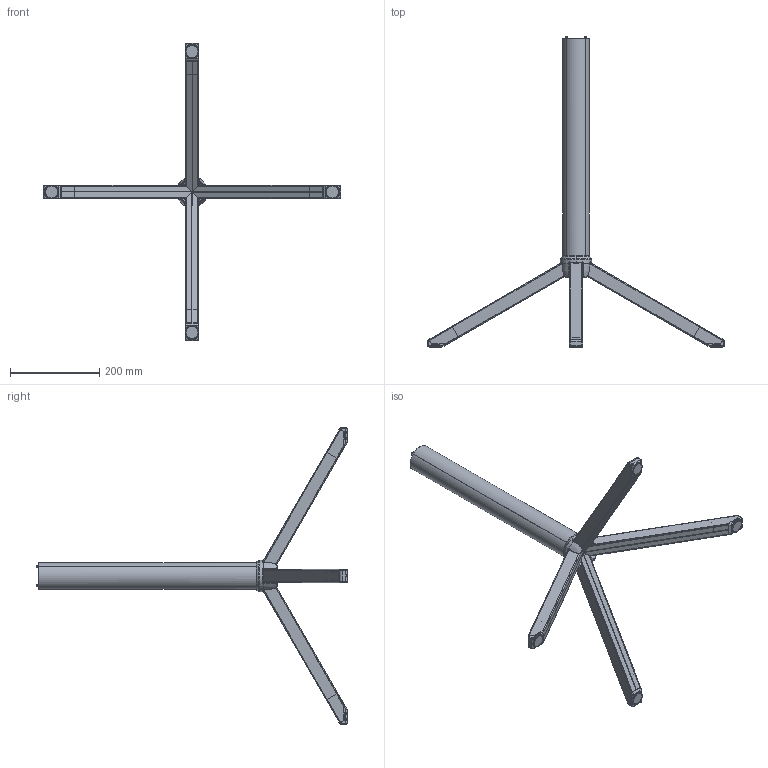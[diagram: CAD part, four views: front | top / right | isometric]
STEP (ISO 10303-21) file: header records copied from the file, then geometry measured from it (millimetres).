
FILE_DESCRIPTION (( 'STEP AP203' ), '1' );
FILE_NAME ('4 Ayak Merkez Katlanýr.STEP', '2020-12-18T14:31:04', ( 'PC' ), ( '' ), 'SwSTEP 2.0', 'SolidWorks 2015', '' );
FILE_SCHEMA (( 'CONFIG_CONTROL_DESIGN' ));
Length unit declared in the file: millimetre
Products named in the file (6): Q60 Masa Borusu; 4 ayak Cap 60 Göbek; 4 Ayak Merkez Katlanýr; 4 AYAK; ayak t; reg黮at鰎
Assembly tree (14 placements, depth 2):
  4 Ayak Merkez Katlanýr
    4 AYAK  x4
    Q60 Masa Borusu
    4 ayak Cap 60 Göbek
    ayak t  x4
    reg黮at鰎  x4
Bounding box: 667 x 698.19 x 667 mm (x, y, z)
Volume: 433896.6 mm3; surface area: 578314.5 mm2
Topology: 14 solids, 14 shells, 1291 faces, 3239 edges, 1966 vertices
Faces by surface type: cylinder 516, plane 369, torus 198, bspline 190, cone 10, sphere 8
Entity records: 21351 total; most frequent: CARTESIAN_POINT 10547, ORIENTED_EDGE 2318, DIRECTION 1792, EDGE_CURVE 1159, VERTEX_POINT 712, AXIS2_PLACEMENT_3D 662, LINE 468, VECTOR 468
